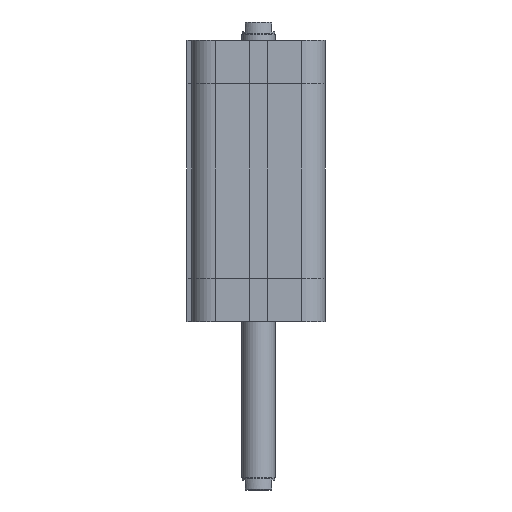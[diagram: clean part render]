
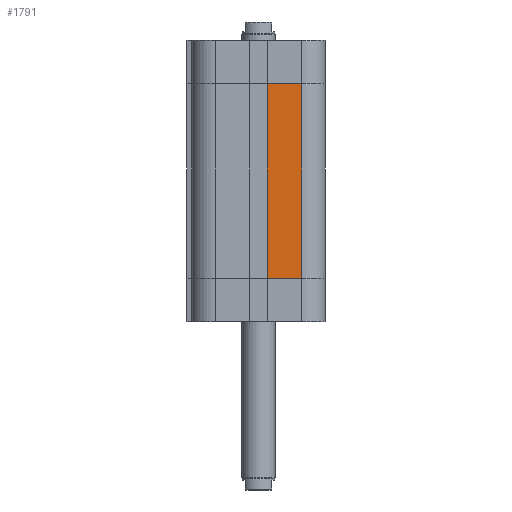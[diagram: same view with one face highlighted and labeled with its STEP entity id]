
A CAD part, left-side view. The second image highlights one B-rep face of the part: STEP entity #1791.
In plain terms, the highlighted planar face has unit normal (-1, 0, 0).
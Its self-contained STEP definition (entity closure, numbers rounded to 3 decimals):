
#1704=CARTESIAN_POINT('',(-20.0,-2.6,13.));
#1705=VERTEX_POINT('',#1704);
#1712=CARTESIAN_POINT('',(-20.0,-2.6,71.5));
#1713=VERTEX_POINT('',#1712);
#1714=CARTESIAN_POINT('',(-20.0,-2.6,13.));
#1715=DIRECTION('',(0.0,0.0,1.0));
#1716=VECTOR('',#1715,58.5);
#1717=LINE('',#1714,#1716);
#1718=EDGE_CURVE('',#1705,#1713,#1717,.T.);
#1761=CARTESIAN_POINT('',(-20.,-13.,0.0));
#1762=DIRECTION('',(-1.0,0.0,0.0));
#1763=DIRECTION('',(0.0,0.0,1.0));
#1764=AXIS2_PLACEMENT_3D('',#1761,#1762,#1763);
#1765=PLANE('',#1764);
#1766=CARTESIAN_POINT('',(-20.,-13.,13.));
#1767=VERTEX_POINT('',#1766);
#1768=CARTESIAN_POINT('',(-20.,-2.6,13.));
#1769=DIRECTION('',(0.0,-1.0,0.0));
#1770=VECTOR('',#1769,10.4);
#1771=LINE('',#1768,#1770);
#1772=EDGE_CURVE('',#1705,#1767,#1771,.T.);
#1773=ORIENTED_EDGE('',*,*,#1772,.T.);
#1774=CARTESIAN_POINT('',(-20.,-13.,71.5));
#1775=VERTEX_POINT('',#1774);
#1776=CARTESIAN_POINT('',(-20.,-13.,13.));
#1777=DIRECTION('',(0.0,0.0,1.0));
#1778=VECTOR('',#1777,58.5);
#1779=LINE('',#1776,#1778);
#1780=EDGE_CURVE('',#1767,#1775,#1779,.T.);
#1781=ORIENTED_EDGE('',*,*,#1780,.T.);
#1782=CARTESIAN_POINT('',(-20.,-2.6,71.5));
#1783=DIRECTION('',(0.0,-1.0,0.0));
#1784=VECTOR('',#1783,10.4);
#1785=LINE('',#1782,#1784);
#1786=EDGE_CURVE('',#1713,#1775,#1785,.T.);
#1787=ORIENTED_EDGE('',*,*,#1786,.F.);
#1788=ORIENTED_EDGE('',*,*,#1718,.F.);
#1789=EDGE_LOOP('',(#1773,#1781,#1787,#1788));
#1790=FACE_OUTER_BOUND('',#1789,.T.);
#1791=ADVANCED_FACE('',(#1790),#1765,.T.);
